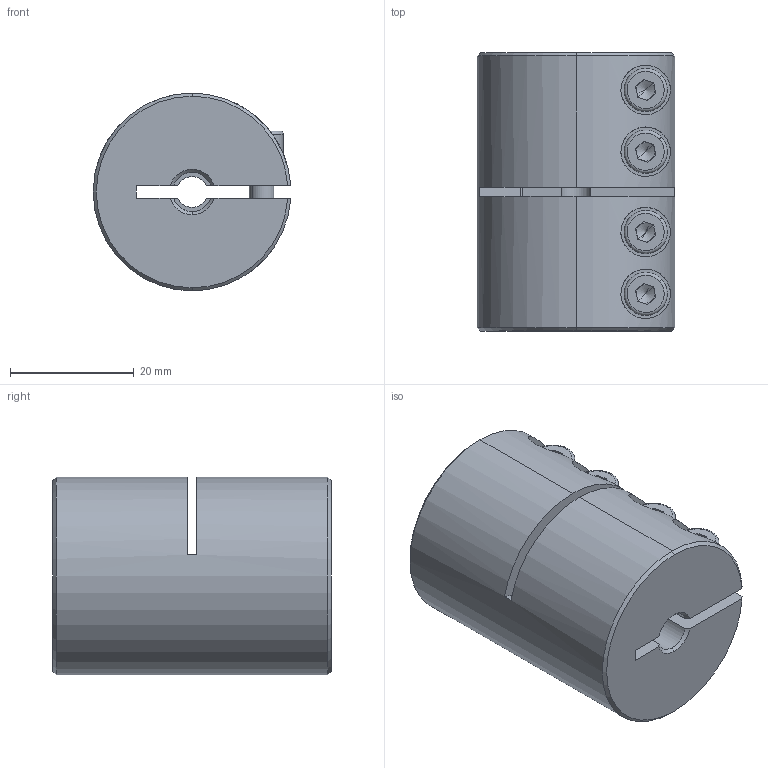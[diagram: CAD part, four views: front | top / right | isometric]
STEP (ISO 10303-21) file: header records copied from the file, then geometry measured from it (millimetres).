
FILE_DESCRIPTION (( 'STEP AP214' ), '1' );
FILE_NAME ('LL-B-D32L45-5-6.35½¨Ä£.STEP', '2022-07-21T06:21:41', ( '' ), ( '' ), 'SwSTEP 2.0', 'SolidWorks 2022', '' );
FILE_SCHEMA (( 'AUTOMOTIVE_DESIGN' ));
Length unit declared in the file: millimetre
Products named in the file (1): LL-B-D32L45-5-6.35膘耀
Bounding box: 31.97 x 45 x 32 mm (x, y, z)
Volume: 32043.1 mm3; surface area: 10693.4 mm2
Topology: 1 solids, 1 shells, 193 faces, 492 edges, 309 vertices
Faces by surface type: plane 88, cylinder 77, cone 20, torus 8
Entity records: 6357 total; most frequent: CARTESIAN_POINT 1583, DIRECTION 1037, ORIENTED_EDGE 968, EDGE_CURVE 484, AXIS2_PLACEMENT_3D 403, VERTEX_POINT 309, LINE 231, VECTOR 231
